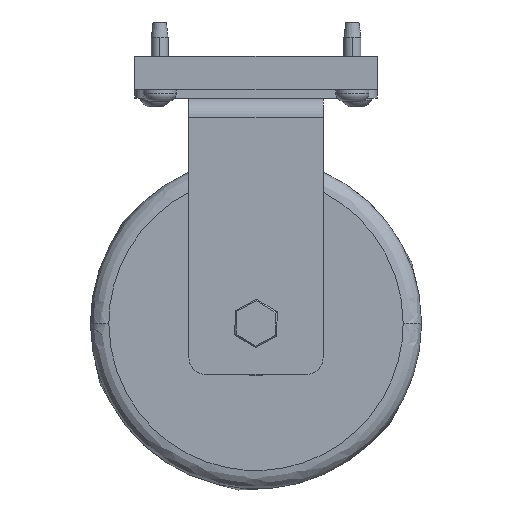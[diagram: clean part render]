
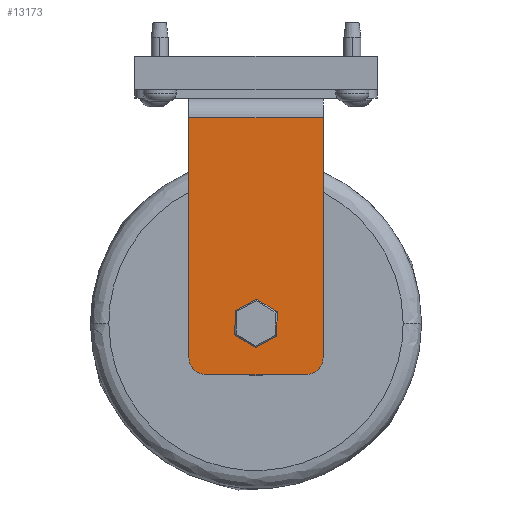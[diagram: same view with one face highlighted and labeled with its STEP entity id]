
A CAD part, left-side view. The second image highlights one B-rep face of the part: STEP entity #13173.
In plain terms, the highlighted planar face has unit normal (-1, 0, 0).
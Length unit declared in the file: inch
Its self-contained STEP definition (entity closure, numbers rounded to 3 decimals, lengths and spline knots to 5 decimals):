
#351 = ORIENTED_EDGE ( 'NONE', *, *, #7540, .T. ) ;
#384 = VERTEX_POINT ( 'NONE', #11910 ) ;
#425 = ORIENTED_EDGE ( 'NONE', *, *, #10739, .T. ) ;
#944 = VERTEX_POINT ( 'NONE', #14861 ) ;
#1519 = AXIS2_PLACEMENT_3D ( 'NONE', #11952, #4799, #13170 ) ;
#2243 = CARTESIAN_POINT ( 'NONE',  ( -1.03962, 0., -0.3612 ) ) ;
#2447 = DIRECTION ( 'NONE',  ( 0., -1., 0. ) ) ;
#2560 = CARTESIAN_POINT ( 'NONE',  ( -1.03962, 0.75, -1.125 ) ) ;
#2733 = CARTESIAN_POINT ( 'NONE',  ( -1.03962, -0.75, -1.125 ) ) ;
#2917 = CARTESIAN_POINT ( 'NONE',  ( -1.03962, 1., -1.125 ) ) ;
#3167 = ORIENTED_EDGE ( 'NONE', *, *, #4284, .F. ) ;
#3209 = VERTEX_POINT ( 'NONE', #5861 ) ;
#3228 = ORIENTED_EDGE ( 'NONE', *, *, #14587, .F. ) ;
#3305 = AXIS2_PLACEMENT_3D ( 'NONE', #7037, #15407, #8202 ) ;
#3474 = DIRECTION ( 'NONE',  ( 0., -1., 0. ) ) ;
#3587 = LINE ( 'NONE', #13179, #9550 ) ;
#4221 = VECTOR ( 'NONE', #5160, 39.37008 ) ;
#4284 = EDGE_CURVE ( 'NONE', #15388, #944, #9961, .T. ) ;
#4450 = EDGE_LOOP ( 'NONE', ( #9526, #351, #425, #9854, #12353, #3228 ) ) ;
#4563 = LINE ( 'NONE', #8214, #7021 ) ;
#4799 = DIRECTION ( 'NONE',  ( -1., 0., 0. ) ) ;
#5160 = DIRECTION ( 'NONE',  ( 0., -1., 0. ) ) ;
#5323 = DIRECTION ( 'NONE',  ( -1., 0., 0. ) ) ;
#5662 = EDGE_LOOP ( 'NONE', ( #3167, #14207 ) ) ;
#5754 = AXIS2_PLACEMENT_3D ( 'NONE', #2917, #5323, #13689 ) ;
#5861 = CARTESIAN_POINT ( 'NONE',  ( -1.03962, -1., 2.71 ) ) ;
#6044 = DIRECTION ( 'NONE',  ( 0., 0., 1. ) ) ;
#6245 = DIRECTION ( 'NONE',  ( -1., 0., 0. ) ) ;
#6502 = PLANE ( 'NONE',  #5754 ) ;
#7021 = VECTOR ( 'NONE', #9412, 39.37008 ) ;
#7037 = CARTESIAN_POINT ( 'NONE',  ( -1.03962, 0.75, -0.875 ) ) ;
#7069 = CIRCLE ( 'NONE', #3305, 0.25 ) ;
#7540 = EDGE_CURVE ( 'NONE', #8545, #8949, #12441, .T. ) ;
#7677 = EDGE_CURVE ( 'NONE', #384, #3209, #10528, .T. ) ;
#8202 = DIRECTION ( 'NONE',  ( 0., -1., 0. ) ) ;
#8214 = CARTESIAN_POINT ( 'NONE',  ( -1.03962, -1., 3. ) ) ;
#8238 = AXIS2_PLACEMENT_3D ( 'NONE', #13373, #6245, #14580 ) ;
#8545 = VERTEX_POINT ( 'NONE', #2560 ) ;
#8872 = FACE_OUTER_BOUND ( 'NONE', #4450, .T. ) ;
#8949 = VERTEX_POINT ( 'NONE', #2733 ) ;
#9226 = EDGE_CURVE ( 'NONE', #14552, #8545, #7069, .T. ) ;
#9412 = DIRECTION ( 'NONE',  ( 0., 0., 1. ) ) ;
#9526 = ORIENTED_EDGE ( 'NONE', *, *, #9226, .T. ) ;
#9550 = VECTOR ( 'NONE', #6044, 39.37008 ) ;
#9618 = CARTESIAN_POINT ( 'NONE',  ( -1.03962, 1., -1.125 ) ) ;
#9854 = ORIENTED_EDGE ( 'NONE', *, *, #13362, .T. ) ;
#9961 = CIRCLE ( 'NONE', #13093, 0.20313 ) ;
#10528 = LINE ( 'NONE', #14735, #4221 ) ;
#10598 = DIRECTION ( 'NONE',  ( -1., 0., 0. ) ) ;
#10739 = EDGE_CURVE ( 'NONE', #8949, #15010, #14528, .T. ) ;
#11576 = CARTESIAN_POINT ( 'NONE',  ( -1.03962, -1., -0.875 ) ) ;
#11910 = CARTESIAN_POINT ( 'NONE',  ( -1.03962, 1., 2.71 ) ) ;
#11952 = CARTESIAN_POINT ( 'NONE',  ( -1.03962, -0.75, -0.875 ) ) ;
#12040 = VECTOR ( 'NONE', #2447, 39.37008 ) ;
#12353 = ORIENTED_EDGE ( 'NONE', *, *, #7677, .F. ) ;
#12428 = FACE_BOUND ( 'NONE', #5662, .T. ) ;
#12441 = LINE ( 'NONE', #9618, #12040 ) ;
#12534 = EDGE_CURVE ( 'NONE', #944, #15388, #15266, .T. ) ;
#13093 = AXIS2_PLACEMENT_3D ( 'NONE', #2243, #10598, #3474 ) ;
#13170 = DIRECTION ( 'NONE',  ( 0., -1., 0. ) ) ;
#13173 = ADVANCED_FACE ( 'NONE', ( #12428, #8872 ), #6502, .T. ) ;
#13179 = CARTESIAN_POINT ( 'NONE',  ( -1.03962, 1., 1.83981 ) ) ;
#13362 = EDGE_CURVE ( 'NONE', #15010, #3209, #4563, .T. ) ;
#13373 = CARTESIAN_POINT ( 'NONE',  ( -1.03962, 0., -0.3612 ) ) ;
#13689 = DIRECTION ( 'NONE',  ( 0., -1., 0. ) ) ;
#14052 = CARTESIAN_POINT ( 'NONE',  ( -1.03962, -0.20313, -0.3612 ) ) ;
#14207 = ORIENTED_EDGE ( 'NONE', *, *, #12534, .F. ) ;
#14528 = CIRCLE ( 'NONE', #1519, 0.25 ) ;
#14552 = VERTEX_POINT ( 'NONE', #15461 ) ;
#14580 = DIRECTION ( 'NONE',  ( 0., -1., 0. ) ) ;
#14587 = EDGE_CURVE ( 'NONE', #14552, #384, #3587, .T. ) ;
#14735 = CARTESIAN_POINT ( 'NONE',  ( -1.03962, 1., 2.71 ) ) ;
#14861 = CARTESIAN_POINT ( 'NONE',  ( -1.03962, 0.20313, -0.3612 ) ) ;
#15010 = VERTEX_POINT ( 'NONE', #11576 ) ;
#15266 = CIRCLE ( 'NONE', #8238, 0.20313 ) ;
#15388 = VERTEX_POINT ( 'NONE', #14052 ) ;
#15407 = DIRECTION ( 'NONE',  ( -1., 0., 0. ) ) ;
#15461 = CARTESIAN_POINT ( 'NONE',  ( -1.03962, 1., -0.875 ) ) ;
